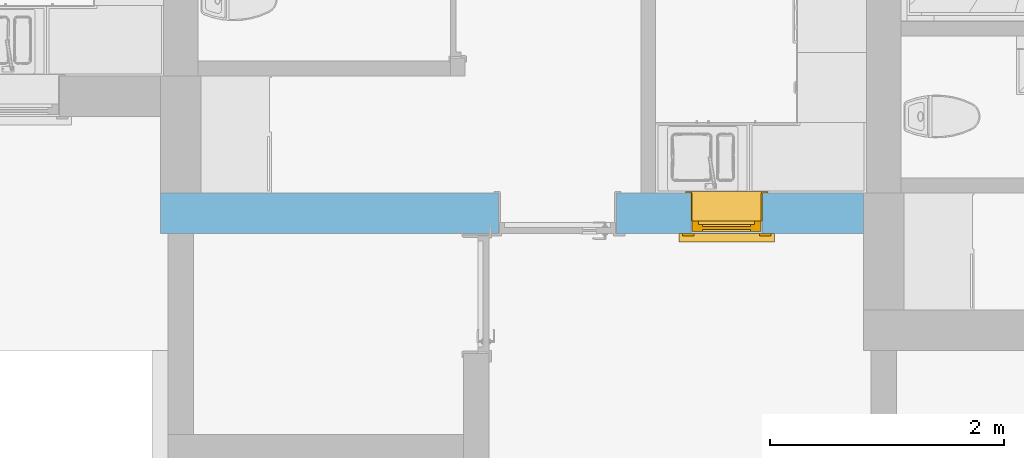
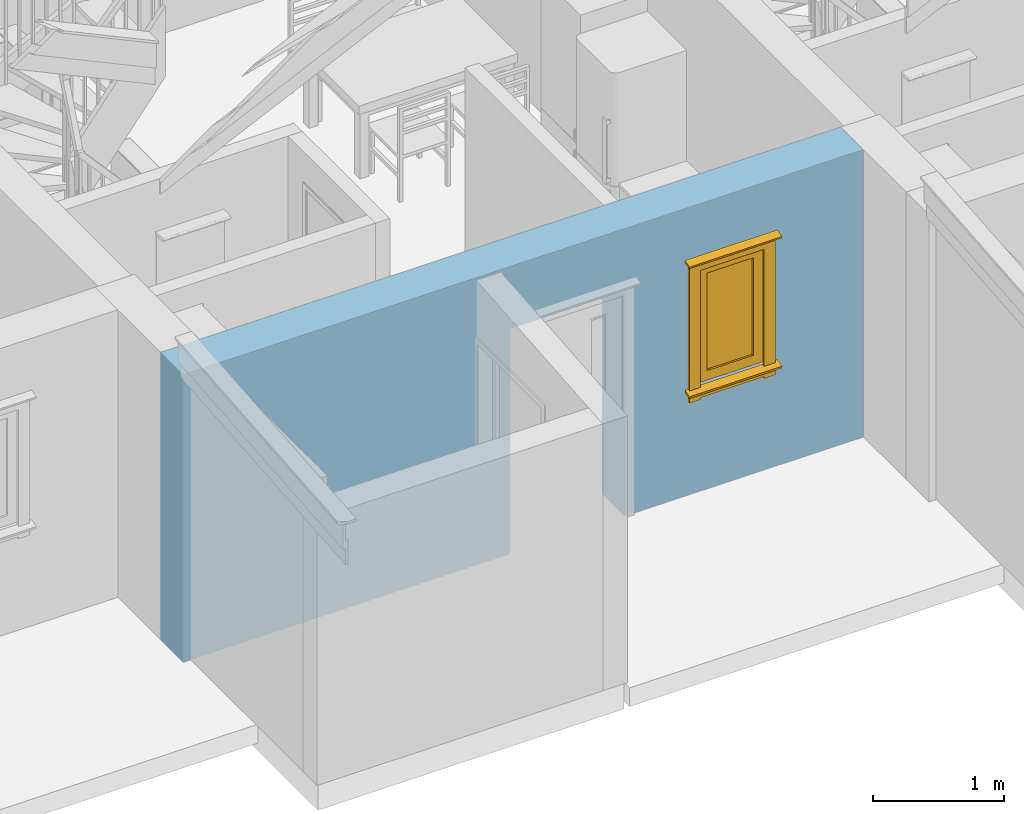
# One storey, part 12 of 65: 1 window, 2 openings, plus 1 element that does not belong to this part.
"""IFC2X3 building model written with IfcOpenShell, lengths in millimetres."""

from ifc_helpers import new_model, entity, si_unit, converted_unit, direction, frame, frame_2d, origin, place, context, subcontext, project, spatial, rectangle, extrude, faceted_brep, source, transform, mapped, material, material_list, layer, layer_set, layer_usage, type_object, type_shapes, element, fill, save


model = new_model("IFC2X3")

# Units and contexts
model_context = context("Model", 3, precision=0.01, world=origin(), true_north=direction((0.0, 1.0)))
body_context = subcontext(model_context, "Body", "Model", "MODEL_VIEW")
ifc_project = project(units=[si_unit("LENGTHUNIT", "METRE", prefix="MILLI"), si_unit("AREAUNIT", "SQUARE_METRE"), si_unit("VOLUMEUNIT", "CUBIC_METRE"), converted_unit("PLANEANGLEUNIT", "DEGREE", entity("IfcPlaneAngleMeasure", 0.017453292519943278), si_unit("PLANEANGLEUNIT", "RADIAN"), dimensions=[0, 0, 0, 0, 0, 0, 0])], contexts=[model_context])

# Site, building, storey
site_placement = place(None, origin())
site = spatial("IfcSite", under=ifc_project, at=site_placement, Name="Default", CompositionType="ELEMENT")
building_placement = place(site_placement, origin())
building = spatial("IfcBuilding", under=site, at=building_placement, CompositionType="ELEMENT")
storey_placement = place(building_placement, origin())
storey = spatial("IfcBuildingStorey", under=building, at=storey_placement, Name="Et. 1", CompositionType="ELEMENT", Elevation=0.0)

# Wall, openings, window
ifc_material_1 = material(Name="Vegg - Stående Kledning_smal - HVIT")
ifc_layer_1 = layer(ifc_material_1, 19.0)
ifc_material_2 = material(Name="Vegg - Utlekting")
ifc_layer_2 = layer(ifc_material_2, 36.0)
ifc_layer_3 = layer(ifc_material_2, 23.0)
ifc_material_3 = material(Name="Vegg - Gips - GU")
ifc_layer_4 = layer(ifc_material_3, 9.0)
ifc_material_4 = material(Name="Vegg - Stender - Isolert")
ifc_layer_5 = layer(ifc_material_4, 198.0)
ifc_material_5 = material(Name="Vegg - Påforing - Isolert")
ifc_layer_6 = layer(ifc_material_5, 48.0)
ifc_material_6 = material(Name="Vegg - Gips - Hvit")
ifc_layer_7 = layer(ifc_material_6, 13.000000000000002)
ifc_layer_set = layer_set([ifc_layer_1, ifc_layer_2, ifc_layer_3, ifc_layer_4, ifc_layer_5, ifc_layer_6, ifc_layer_7], Name="Basic Wall:23-Kv(sm)TIG-19_36_23_9_198_48_13")
ifc_layer_usage = layer_usage(ifc_layer_set, "AXIS2", "NEGATIVE", 173.0)
wall_type = type_object("IfcWallType", Name="Basic Wall:23-Kv(sm)TIG-19_36_23_9_198_48_13", PredefinedType="STANDARD", material=ifc_layer_set)
wall_placement = place(storey_placement, frame((28005.009586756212, 9581.180957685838, 0.0), z_axis=(0.0, 0.0, 1.0), x_axis=(-1.0, 0.0, 0.0)))
wall = element("IfcWallStandardCase", 1, at=wall_placement, inside=storey, type_object=wall_type, material=ifc_layer_usage, Name="Basic Wall:23-Kv(sm)TIG-19_36_23_9_198_48_13", context=body_context, shape_type="SweptSolid", body=[
    extrude(rectangle(XDim=6000.000000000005, YDim=346.0000000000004, at=frame_2d((3000.0000000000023, -5.400124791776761e-13), x_axis=(-1.0, 0.0))), origin(), (0.0, 0.0, 1.0), 2681.0),
])
opening_1_placement = place(wall_placement, frame((2106.499999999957, -173.0, 0.0)))
element("IfcOpeningElement", 2, at=opening_1_placement, cuts=wall, Name="YD 1 Glassfelt omramming:10x21M:1", ObjectType="Opening", context=body_context, shape_type="SweptSolid", body=[
    extrude(rectangle(XDim=1010.000000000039, YDim=2100.000000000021, at=frame_2d((1050.0000000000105, 505.0000000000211), x_axis=(0.0, 1.0))), frame((0.0, 0.0, 0.0), z_axis=(0.0, 1.0, 0.0), x_axis=(0.0, 0.0, 1.0)), (0.0, 0.0, 1.0), 346.0),
])
opening_2_placement = place(wall_placement, frame((863.0, -173.0, 990.0)))
opening_2 = element("IfcOpeningElement", 3, at=opening_2_placement, cuts=wall, Name="Hel Rute Åpningsvindu m omramming:6x11M:1", ObjectType="Opening", context=body_context, shape_type="SweptSolid", body=[
    extrude(rectangle(XDim=609.9999999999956, YDim=1109.9999999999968, at=frame_2d((554.9999999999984, 304.9999999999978), x_axis=(0.0, -1.0))), frame((0.0, 0.0, 0.0), z_axis=(0.0, 1.0, 0.0), x_axis=(0.0, 0.0, 1.0)), (0.0, 0.0, 1.0), 346.0),
])
ifc_material_7 = material(Name="Omramming")
ifc_material_8 = material(Name="Karm")
ifc_material_9 = material(Name="Glass - Klart")
ifc_material_list = material_list([ifc_material_7, ifc_material_8, ifc_material_9])
window_style = type_object("IfcWindowStyle", Name="Hel Rute Åpningsvindu m omramming:6x11M", ConstructionType="NOTDEFINED", OperationType="NOTDEFINED", ParameterTakesPrecedence=False, Sizeable=False, material=ifc_material_list)
shared_shape = source(origin(), body_context, "Body", "Brep", [
    faceted_brep([(-73.0, 368.0, 1189.1537012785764), (25.0, 368.0, 1189.1537012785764), (25.0, 368.0, -5.894882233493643), (-73.0, 368.0, -5.894882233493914), (585.0, 346.0, -120.0), (683.0, 346.0, -120.0), (683.0, 346.0, -22.776075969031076), (713.0, 346.0, -22.77607596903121), (713.0, 346.0, 0.0), (683.0, 346.0, 0.0), (683.0, 346.0, 1189.1537012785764), (585.0, 346.0, 1189.1537012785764), (585.0, 346.0, 0.0), (25.0, 346.0, 0.0), (25.0, 346.0, 1189.1537012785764), (-73.0, 346.0, 1189.1537012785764), (-73.0, 346.0, 0.0), (-103.0, 346.0, 0.0), (-103.0, 346.0, -22.776075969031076), (-73.0, 346.0, -22.776075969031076), (-73.0, 346.0, -120.0), (25.0, 346.0, -120.0), (25.0, 346.0, -22.776075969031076), (585.0, 346.0, -22.776075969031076), (683.0, 368.0, 1189.1537012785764), (585.0, 368.0, 1189.1537012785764), (683.0, 368.0, -5.894882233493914), (585.0, 368.0, -120.0), (683.0, 368.0, -120.0), (585.0, 368.0, -5.894882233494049), (-73.0, 368.0, -120.0), (25.0, 368.0, -120.0), (-103.0, 413.6148078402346, -40.89340912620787), (-103.0, 419.3088268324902, -19.64304094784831), (713.0, 413.6148078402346, -40.89340912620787), (713.0, 419.3088268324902, -19.64304094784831), (683.0, 368.0, -28.67095820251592), (585.0, 368.0, -28.670958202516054), (25.0, 368.0, -28.67095820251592), (-73.0, 368.0, -28.670958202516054)], [[[0, 1, 2, 3]], [[4, 5, 6, 7, 8, 9, 10, 11, 12, 13, 14, 15, 16, 17, 18, 19, 20, 21, 22, 23]], [[24, 25, 11, 10]], [[24, 10, 9, 26]], [[27, 28, 5, 4]], [[11, 25, 29, 12]], [[1, 0, 15, 14]], [[1, 14, 13, 2]], [[30, 31, 21, 20]], [[15, 0, 3, 16]], [[32, 18, 17, 33]], [[34, 35, 8, 7]], [[18, 32, 34, 7, 6, 36, 37, 23, 22, 38, 39, 19]], [[33, 17, 16, 3, 2, 13, 12, 29, 26, 9, 8, 35]], [[32, 33, 35, 34]], [[30, 20, 19, 39]], [[21, 31, 38, 22]], [[27, 4, 23, 37]], [[5, 28, 36, 6]], [[31, 30, 39, 38]], [[25, 24, 26, 29]], [[28, 27, 37, 36]]]),
    faceted_brep([(713.0, 413.52687511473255, 1170.8011105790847), (713.0, 418.4444369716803, 1189.1537012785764), (713.0, 346.0, 1208.5651296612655), (713.0, 346.0, 1188.8948822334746), (-103.0, 413.52687511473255, 1170.8011105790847), (-103.0, 346.0, 1188.8948822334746), (-103.0, 346.0, 1208.5651296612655), (-103.0, 418.4444369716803, 1189.1537012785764)], [[[0, 1, 2, 3]], [[4, 5, 6, 7]], [[1, 0, 4, 7]], [[2, 1, 7, 6]], [[3, 2, 6, 5]], [[0, 3, 5, 4]]]),
    faceted_brep([(25.0, 368.0, 1183.0), (585.0, 368.0, 1183.0), (585.0, 368.0, 1085.0), (25.0, 368.0, 1085.0), (25.0, 346.0, 1183.0), (25.0, 346.0, 1085.0), (585.0, 346.0, 1085.0), (585.0, 346.0, 1183.0)], [[[0, 1, 2, 3]], [[4, 5, 6, 7]], [[1, 0, 4, 7]], [[2, 1, 7, 6]], [[3, 2, 6, 5]], [[0, 3, 5, 4]]]),
    faceted_brep([(585.0, 368.0, -30.0), (25.0, 368.0, -30.0), (25.0, 346.0, -30.0), (585.0, 346.0, -30.0), (585.0, 368.0, -102.0), (585.0, 346.0, -102.0), (25.0, 368.0, -102.0), (25.0, 346.0, -102.0)], [[[0, 1, 2, 3]], [[4, 0, 3, 5]], [[6, 4, 5, 7]], [[1, 6, 7, 2]], [[2, 7, 5, 3]], [[1, 0, 4, 6]]]),
    faceted_brep([(100.0, 271.0, 100.0), (100.0, 331.0, 100.0), (100.0, 331.0, 1010.0), (100.0, 271.0, 1010.0), (50.0, 331.0, 50.0), (50.0, 271.0, 50.0), (50.0, 271.0, 1060.0), (50.0, 331.0, 1060.0), (510.0, 331.0, 1010.0), (510.0, 271.0, 1010.0), (560.0, 271.0, 1060.0), (560.0, 331.0, 1060.0), (510.0, 331.0, 100.0), (510.0, 271.0, 100.0), (560.0, 271.0, 50.0), (560.0, 331.0, 50.0)], [[[0, 1, 2, 3]], [[4, 5, 6, 7]], [[3, 2, 8, 9]], [[7, 6, 10, 11]], [[9, 8, 12, 13]], [[11, 10, 14, 15]], [[13, 12, 1, 0]], [[3, 9, 13, 0], [5, 14, 10, 6]], [[15, 14, 5, 4]], [[7, 11, 15, 4], [1, 12, 8, 2]]], outer=[[True], [True], [True], [True], [True], [True], [True], [False, True], [True], [True, False]]),
    faceted_brep([(510.0, 288.4999999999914, 100.0), (510.0, 288.49999999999, 1010.0), (100.0, 288.49999999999, 1010.0), (100.0, 288.4999999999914, 100.0), (510.0, 313.4999999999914, 100.0), (100.0, 313.4999999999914, 100.0), (100.0, 313.49999999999, 1010.0), (510.0, 313.49999999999, 1010.0)], [[[0, 1, 2, 3]], [[4, 5, 6, 7]], [[1, 0, 4, 7]], [[2, 1, 7, 6]], [[3, 2, 6, 5]], [[0, 3, 5, 4]]]),
    faceted_brep([(600.0, 239.0, 10.0), (600.0, 331.0, 10.0), (600.0, 331.0, 1100.0), (600.0, 239.0, 1100.0), (560.0, 331.0, 1060.0), (560.0, 331.0, 50.0), (560.0, 271.0, 50.0), (560.0, 271.0, 1060.0), (10.0, 331.0, 1100.0), (10.0, 239.0, 1100.0), (50.0, 331.0, 1060.0), (50.0, 271.0, 1060.0), (10.0, 331.0, 10.0), (10.0, 239.0, 10.0), (50.0, 331.0, 50.0), (50.0, 271.0, 50.0), (65.0, 239.0, 65.0), (65.0, 239.0, 1045.0), (545.0, 239.0, 1045.0), (545.0, 239.0, 65.0), (65.0, 271.0, 65.0), (65.0, 271.0, 1045.0), (545.0, 271.0, 1045.0), (545.0, 271.0, 65.0)], [[[0, 1, 2, 3]], [[4, 5, 6, 7]], [[3, 2, 8, 9]], [[10, 4, 7, 11]], [[9, 8, 12, 13]], [[14, 10, 11, 15]], [[2, 1, 12, 8], [5, 4, 10, 14]], [[1, 0, 13, 12]], [[0, 3, 9, 13], [16, 17, 18, 19]], [[5, 14, 15, 6]], [[16, 20, 21, 17]], [[17, 21, 22, 18]], [[18, 22, 23, 19]], [[20, 16, 19, 23]], [[7, 6, 15, 11], [21, 20, 23, 22]]]),
    faceted_brep([(610.0, 239.0, 1110.0), (610.0, 239.0, 0.0), (0.0, 239.0, 0.0), (0.0, 239.0, 1110.0), (10.0, 239.0, 10.0), (600.0, 239.0, 10.0), (600.0, 239.0, 1100.0), (10.0, 239.0, 1100.0), (610.0, 0.0, 1110.0), (0.0, 0.0, 1110.0), (0.0, 0.0, 0.0), (610.0, 0.0, 0.0), (10.0, 0.0, 10.0), (10.0, 0.0, 1100.0), (600.0, 0.0, 1100.0), (600.0, 0.0, 10.0)], [[[0, 1, 2, 3], [4, 5, 6, 7]], [[8, 9, 10, 11], [12, 13, 14, 15]], [[1, 0, 8, 11]], [[2, 1, 11, 10]], [[3, 2, 10, 9]], [[0, 3, 9, 8]], [[5, 4, 12, 15]], [[6, 5, 15, 14]], [[7, 6, 14, 13]], [[4, 7, 13, 12]]]),
    faceted_brep([(5.0, -12.0, 1105.0), (5.0, 0.0, 1105.0), (605.0, 0.0, 1105.0), (605.0, -12.0, 1105.0), (-47.0, 0.0, 1157.0), (-47.0, -12.0, 1157.0), (657.0, -12.0, 1157.0), (657.0, 0.0, 1157.0), (605.0, 0.0, 5.0), (605.0, -12.0, 5.0), (657.0, -12.0, -47.0), (657.0, 0.0, -47.0), (5.0, 0.0, 5.0), (5.0, -12.0, 5.0), (-47.0, -12.0, -47.0), (-47.0, 0.0, -47.0)], [[[0, 1, 2, 3]], [[4, 5, 6, 7]], [[3, 2, 8, 9]], [[7, 6, 10, 11]], [[9, 8, 12, 13]], [[11, 10, 14, 15]], [[7, 11, 15, 4], [1, 12, 8, 2]], [[13, 12, 1, 0]], [[3, 9, 13, 0], [5, 14, 10, 6]], [[15, 14, 5, 4]]], outer=[[True], [True], [True], [True], [True], [True], [True, False], [True], [False, True], [True]]),
])
type_shapes(window_style, [shared_shape])
window_placement = place(opening_2_placement, origin())
window = element("IfcWindow", 4, at=window_placement, inside=storey, type_object=window_style, material=ifc_material_list, Name="Hel Rute Åpningsvindu m omramming:6x11M", OverallHeight=1109.9999999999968, OverallWidth=609.9999999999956, context=body_context, shape_type="MappedRepresentation", body=[
    mapped(shared_shape, transform((0.0, 0.0, 0.0), scale=1.0)),
])
fill(opening_2, window)

save(model, "model.ifc")
